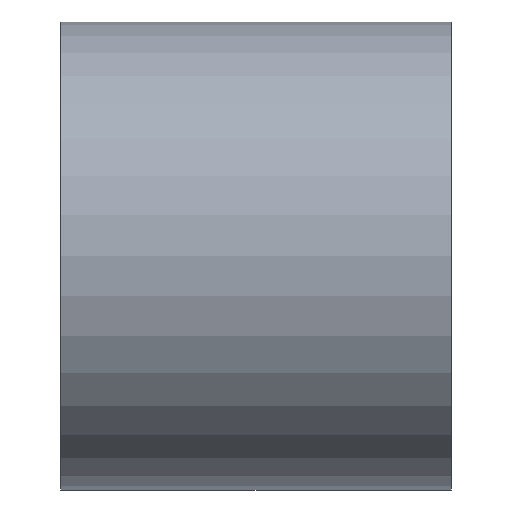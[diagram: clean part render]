
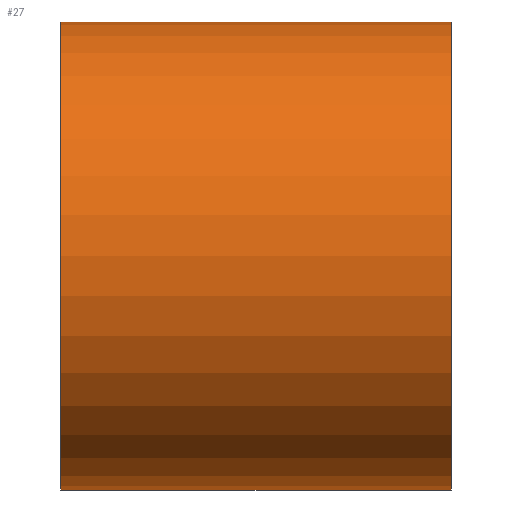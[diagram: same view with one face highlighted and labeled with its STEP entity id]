
A CAD part, top view. The second image highlights one B-rep face of the part: STEP entity #27.
In plain terms, the highlighted cylindrical face has radius 18 mm (diameter 36 mm), a partial arc.
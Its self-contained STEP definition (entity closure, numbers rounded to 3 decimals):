
#27=ADVANCED_FACE('',(#33),#69,.T.);
#33=FACE_OUTER_BOUND('',#41,.F.);
#41=EDGE_LOOP('',(#62,#63,#64,#65));
#62=ORIENTED_EDGE('',*,*,#84,.F.);
#63=ORIENTED_EDGE('',*,*,#89,.T.);
#64=ORIENTED_EDGE('',*,*,#85,.T.);
#65=ORIENTED_EDGE('',*,*,#88,.T.);
#69=CYLINDRICAL_SURFACE('',#204,18.);
#72=LINE('',#263,#76);
#73=LINE('',#264,#77);
#76=VECTOR('',#221,30.);
#77=VECTOR('',#222,30.);
#84=EDGE_CURVE('',#98,#101,#72,.T.);
#85=EDGE_CURVE('',#99,#100,#73,.T.);
#88=EDGE_CURVE('',#100,#101,#96,.T.);
#89=EDGE_CURVE('',#98,#99,#97,.T.);
#96=CIRCLE('',#197,18.);
#97=CIRCLE('',#198,18.);
#98=VERTEX_POINT('',#249);
#99=VERTEX_POINT('',#250);
#100=VERTEX_POINT('',#251);
#101=VERTEX_POINT('',#252);
#197=AXIS2_PLACEMENT_3D('',#267,#227,#228);
#198=AXIS2_PLACEMENT_3D('',#268,#229,#230);
#204=AXIS2_PLACEMENT_3D('',#274,#241,#242);
#221=DIRECTION('',(1.,0.,0.));
#222=DIRECTION('',(1.,0.,0.));
#227=DIRECTION('',(1.,0.,0.));
#228=DIRECTION('',(0.,1.,0.));
#229=DIRECTION('',(-1.,0.,0.));
#230=DIRECTION('',(0.,-1.,0.));
#241=DIRECTION('',(1.,0.,0.));
#242=DIRECTION('',(0.,1.,0.));
#249=CARTESIAN_POINT('',(0.,-18.,0.));
#250=CARTESIAN_POINT('',(0.,18.,0.));
#251=CARTESIAN_POINT('',(30.,18.,0.));
#252=CARTESIAN_POINT('',(30.,-18.,0.));
#263=CARTESIAN_POINT('',(0.,-18.,0.));
#264=CARTESIAN_POINT('',(0.,18.,0.));
#267=CARTESIAN_POINT('',(30.,0.,0.));
#268=CARTESIAN_POINT('',(0.,0.,0.));
#274=CARTESIAN_POINT('',(0.,0.,0.));
